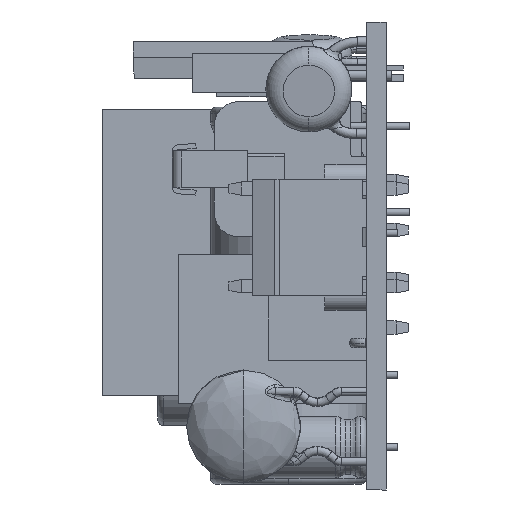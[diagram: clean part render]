
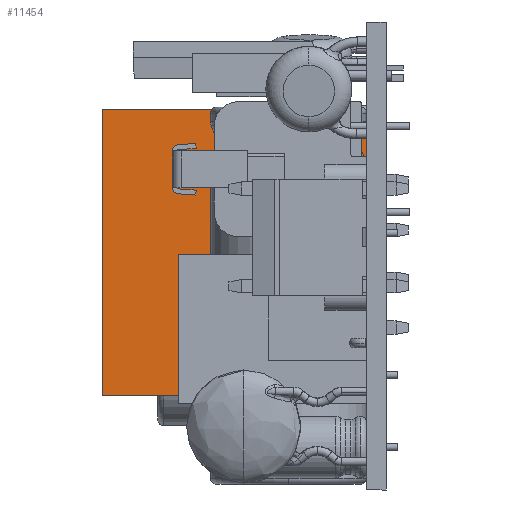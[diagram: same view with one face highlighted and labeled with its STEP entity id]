
A CAD part, left-side view. The second image highlights one B-rep face of the part: STEP entity #11454.
In plain terms, the highlighted planar face has unit normal (-1, 0, 0).
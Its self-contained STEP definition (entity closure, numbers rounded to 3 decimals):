
#152 = VERTEX_POINT ( 'NONE', #3195 ) ;
#436 = LINE ( 'NONE', #5515, #3826 ) ;
#1449 = DIRECTION ( 'NONE',  ( 0., 0., -1. ) ) ;
#2819 = AXIS2_PLACEMENT_3D ( 'NONE', #5133, #4794, #1449 ) ;
#3195 = CARTESIAN_POINT ( 'NONE',  ( 37.955, 30.424, 21.5 ) ) ;
#3435 = CARTESIAN_POINT ( 'NONE',  ( 37.955, 7.12, 0. ) ) ;
#3826 = VECTOR ( 'NONE', #10694, 1000. ) ;
#4124 = LINE ( 'NONE', #16774, #5360 ) ;
#4377 = VECTOR ( 'NONE', #5418, 1000. ) ;
#4563 = DIRECTION ( 'NONE',  ( 0., -1., 0. ) ) ;
#4794 = DIRECTION ( 'NONE',  ( 1., 0., 0. ) ) ;
#5133 = CARTESIAN_POINT ( 'NONE',  ( 37.955, 7.12, 21.5 ) ) ;
#5229 = LINE ( 'NONE', #8694, #16126 ) ;
#5360 = VECTOR ( 'NONE', #4563, 1000. ) ;
#5418 = DIRECTION ( 'NONE',  ( 0., 0., -1. ) ) ;
#5515 = CARTESIAN_POINT ( 'NONE',  ( 37.955, 7.12, 21.5 ) ) ;
#5538 = VERTEX_POINT ( 'NONE', #18094 ) ;
#6439 = ORIENTED_EDGE ( 'NONE', *, *, #18122, .T. ) ;
#7235 = VERTEX_POINT ( 'NONE', #3435 ) ;
#8527 = EDGE_CURVE ( 'NONE', #152, #5538, #436, .T. ) ;
#8643 = ORIENTED_EDGE ( 'NONE', *, *, #8527, .F. ) ;
#8694 = CARTESIAN_POINT ( 'NONE',  ( 37.955, 30.424, 21.5 ) ) ;
#10023 = EDGE_CURVE ( 'NONE', #11445, #7235, #4124, .T. ) ;
#10212 = FACE_OUTER_BOUND ( 'NONE', #20848, .T. ) ;
#10694 = DIRECTION ( 'NONE',  ( 0., -1., 0. ) ) ;
#11445 = VERTEX_POINT ( 'NONE', #22410 ) ;
#11454 = ADVANCED_FACE ( 'NONE', ( #10212 ), #20576, .F. ) ;
#13922 = ORIENTED_EDGE ( 'NONE', *, *, #19086, .F. ) ;
#15822 = DIRECTION ( 'NONE',  ( 0., 0., -1. ) ) ;
#16008 = CARTESIAN_POINT ( 'NONE',  ( 37.955, 7.12, 21.5 ) ) ;
#16126 = VECTOR ( 'NONE', #15822, 1000. ) ;
#16774 = CARTESIAN_POINT ( 'NONE',  ( 37.955, 7.12, 0. ) ) ;
#18094 = CARTESIAN_POINT ( 'NONE',  ( 37.955, 7.12, 21.5 ) ) ;
#18122 = EDGE_CURVE ( 'NONE', #152, #11445, #5229, .T. ) ;
#18201 = ORIENTED_EDGE ( 'NONE', *, *, #10023, .T. ) ;
#19086 = EDGE_CURVE ( 'NONE', #5538, #7235, #21305, .T. ) ;
#20576 = PLANE ( 'NONE',  #2819 ) ;
#20848 = EDGE_LOOP ( 'NONE', ( #18201, #13922, #8643, #6439 ) ) ;
#21305 = LINE ( 'NONE', #16008, #4377 ) ;
#22410 = CARTESIAN_POINT ( 'NONE',  ( 37.955, 30.424, 0. ) ) ;
